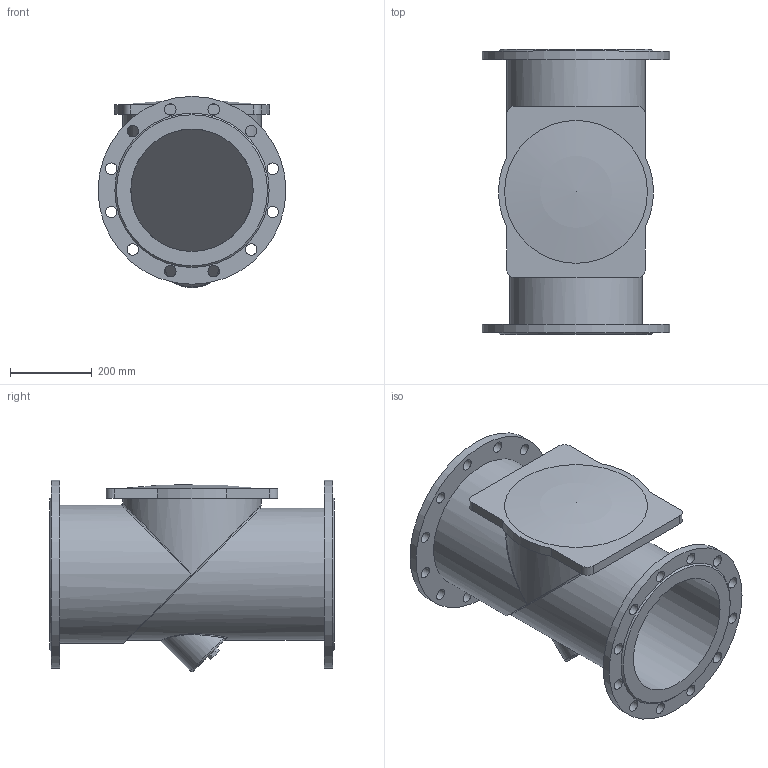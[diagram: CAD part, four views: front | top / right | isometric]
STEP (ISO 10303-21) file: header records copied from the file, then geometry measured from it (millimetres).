
FILE_DESCRIPTION(('STEP AP203'), '1');
FILE_NAME('Êëàïàí îäíîñòâîð÷àòûé îáðàòíûé ôëàíöåâûé 015F.Z DN300 PN16', '', ('UNSPECIFIED'), ('UNSPECIFIED'), 'ASCON STEP Converter 1.6', 'ASCON Math Kernel', '');
FILE_SCHEMA(('CONFIG_CONTROL_DESIGN'));
Length unit declared in the file: millimetre
Bounding box: 460 x 698 x 468.34 mm (x, y, z)
Volume: 21329302.7 mm3; surface area: 2249508.1 mm2
Topology: 1 solids, 2 shells, 78 faces, 183 edges, 118 vertices
Faces by surface type: cylinder 41, plane 27, bspline 6, cone 2, torus 1, sphere 1
Full cylindrical faces by diameter (mm): 28 x24, 300 x2, 315 x1, 324 x1, 339 x2, 460 x2
Entity records: 4380 total; most frequent: CARTESIAN_POINT 1989, DIRECTION 346, ORIENTED_EDGE 288, EDGE_LOOP 173, AXIS2_PLACEMENT_3D 152, EDGE_CURVE 144, VERTEX_POINT 117, FACE_BOUND 104
